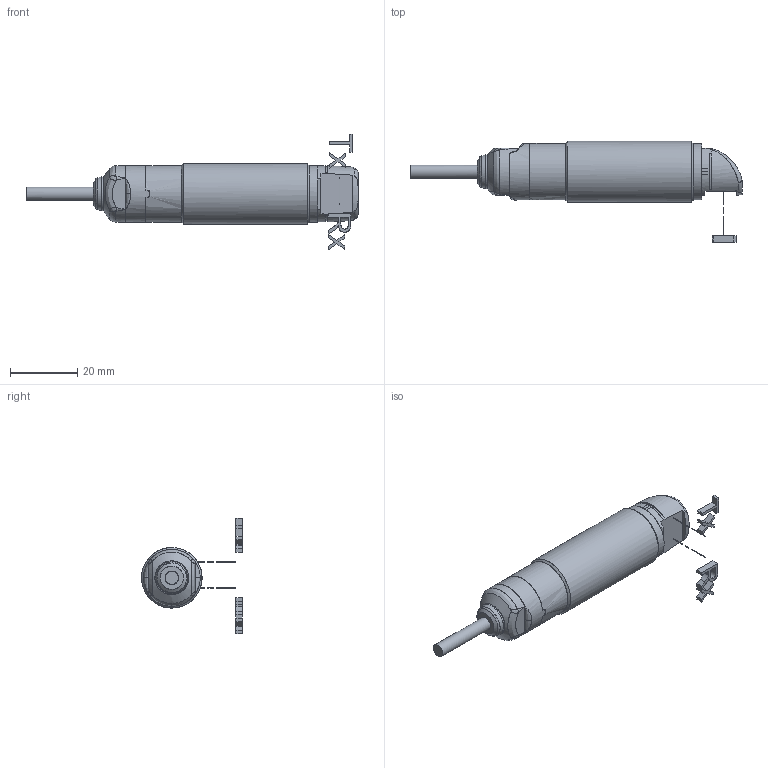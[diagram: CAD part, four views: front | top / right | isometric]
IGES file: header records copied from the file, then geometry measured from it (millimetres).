
Global section: file name: D:\TMP\DSD-0102.igs; preprocessor: I-DEAS 3D IGES Translator 11; date: 20060608.104621; units: millimetre
Bounding box: 98.63 x 30 x 34.32 mm (x, y, z)
Surface area: 9223.2 mm2
Topology: 8 solids, 8 shells, 206 faces, 940 edges, 851 vertices
Faces by surface type: bspline 206
